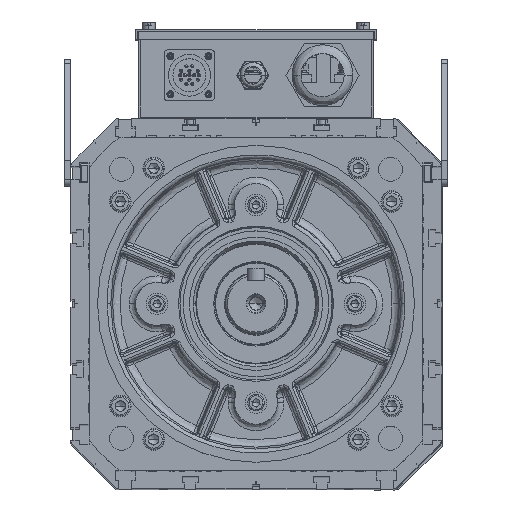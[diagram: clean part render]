
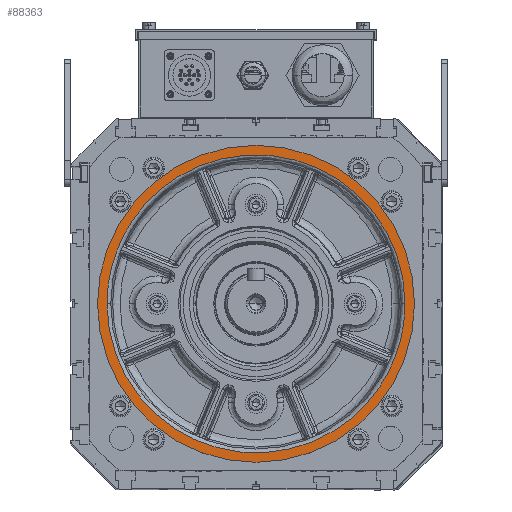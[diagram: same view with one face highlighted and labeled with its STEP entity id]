
A CAD part, top view. The second image highlights one B-rep face of the part: STEP entity #88363.
In plain terms, the highlighted planar face has unit normal (0, 0, 1) as drawn and (0, 0, -1) by its records, which use the part's own axes.
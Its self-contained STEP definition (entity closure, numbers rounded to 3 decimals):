
#145 = CARTESIAN_POINT ( 'NONE',  ( 58.202, 5.856, 132.5 ) ) ;
#4566 = VERTEX_POINT ( 'NONE', #32604 ) ;
#5213 = VERTEX_POINT ( 'NONE', #56225 ) ;
#5907 = EDGE_CURVE ( 'NONE', #4566, #5213, #151595, .T. ) ;
#14507 =( BOUNDED_CURVE ( )  B_SPLINE_CURVE ( 3, ( #111918, #18176, #76614, #40471 ),
 .UNSPECIFIED., .F., .F. ) 
 B_SPLINE_CURVE_WITH_KNOTS ( ( 4, 4 ),
 ( 0., 1. ),
 .UNSPECIFIED. ) 
 CURVE ( )  GEOMETRIC_REPRESENTATION_ITEM ( )  RATIONAL_B_SPLINE_CURVE ( ( 1., 0.333, 0.333, 1. ) ) 
 REPRESENTATION_ITEM ( '' )  );
#14834 = PLANE ( 'NONE',  #15139 ) ;
#15139 = AXIS2_PLACEMENT_3D ( 'NONE', #97174, #132370, #25684 ) ;
#18176 = CARTESIAN_POINT ( 'NONE',  ( 175.72, -229.179, 132.5 ) ) ;
#20275 =( BOUNDED_CURVE ( )  B_SPLINE_CURVE ( 3, ( #142485, #35278, #59080, #141979 ),
 .UNSPECIFIED., .F., .T. ) 
 B_SPLINE_CURVE_WITH_KNOTS ( ( 4, 4 ),
 ( 0., 1. ),
 .UNSPECIFIED. ) 
 CURVE ( )  GEOMETRIC_REPRESENTATION_ITEM ( )  RATIONAL_B_SPLINE_CURVE ( ( 1., 0.333, 0.333, 1. ) ) 
 REPRESENTATION_ITEM ( '' )  );
#21590 = CARTESIAN_POINT ( 'NONE',  ( 175.72, 5.856, 132.5 ) ) ;
#23016 = VERTEX_POINT ( 'NONE', #21590 ) ;
#24966 = DIRECTION ( 'NONE',  ( -1., 0., 0. ) ) ;
#25684 = DIRECTION ( 'NONE',  ( 1., 0., 0. ) ) ;
#27526 = AXIS2_PLACEMENT_3D ( 'NONE', #104190, #58587, #116635 ) ;
#32604 = CARTESIAN_POINT ( 'NONE',  ( 183.202, 5.856, 132.5 ) ) ;
#35278 = CARTESIAN_POINT ( 'NONE',  ( -59.315, 240.89, 132.5 ) ) ;
#40471 = CARTESIAN_POINT ( 'NONE',  ( -59.315, 5.856, 132.5 ) ) ;
#52750 = ORIENTED_EDGE ( 'NONE', *, *, #129445, .F. ) ;
#56225 = CARTESIAN_POINT ( 'NONE',  ( -66.798, 5.856, 132.5 ) ) ;
#57474 = FACE_BOUND ( 'NONE', #111803, .T. ) ;
#58587 = DIRECTION ( 'NONE',  ( 0., 0., 1. ) ) ;
#59080 = CARTESIAN_POINT ( 'NONE',  ( 175.72, 240.89, 132.5 ) ) ;
#76614 = CARTESIAN_POINT ( 'NONE',  ( -59.315, -229.179, 132.5 ) ) ;
#79988 = AXIS2_PLACEMENT_3D ( 'NONE', #145, #143010, #24966 ) ;
#82057 = ORIENTED_EDGE ( 'NONE', *, *, #129759, .F. ) ;
#84085 = VERTEX_POINT ( 'NONE', #144780 ) ;
#88363 = ADVANCED_FACE ( 'NONE', ( #109568, #57474 ), #14834, .F. ) ;
#97174 = CARTESIAN_POINT ( 'NONE',  ( 58.202, 130.856, 132.5 ) ) ;
#104190 = CARTESIAN_POINT ( 'NONE',  ( 58.202, 5.856, 132.5 ) ) ;
#107898 = EDGE_LOOP ( 'NONE', ( #52750, #143742 ) ) ;
#109568 = FACE_OUTER_BOUND ( 'NONE', #107898, .T. ) ;
#111803 = EDGE_LOOP ( 'NONE', ( #82057, #113598 ) ) ;
#111918 = CARTESIAN_POINT ( 'NONE',  ( 175.72, 5.856, 132.5 ) ) ;
#113598 = ORIENTED_EDGE ( 'NONE', *, *, #126531, .F. ) ;
#116635 = DIRECTION ( 'NONE',  ( -1., 0., 0. ) ) ;
#126531 = EDGE_CURVE ( 'NONE', #84085, #23016, #20275, .T. ) ;
#129445 = EDGE_CURVE ( 'NONE', #5213, #4566, #132551, .T. ) ;
#129759 = EDGE_CURVE ( 'NONE', #23016, #84085, #14507, .T. ) ;
#132370 = DIRECTION ( 'NONE',  ( 0., 0., 1. ) ) ;
#132551 = CIRCLE ( 'NONE', #79988, 125. ) ;
#141979 = CARTESIAN_POINT ( 'NONE',  ( 175.72, 5.856, 132.5 ) ) ;
#142485 = CARTESIAN_POINT ( 'NONE',  ( -59.315, 5.856, 132.5 ) ) ;
#143010 = DIRECTION ( 'NONE',  ( 0., 0., 1. ) ) ;
#143742 = ORIENTED_EDGE ( 'NONE', *, *, #5907, .F. ) ;
#144780 = CARTESIAN_POINT ( 'NONE',  ( -59.315, 5.856, 132.5 ) ) ;
#151595 = CIRCLE ( 'NONE', #27526, 125. ) ;
